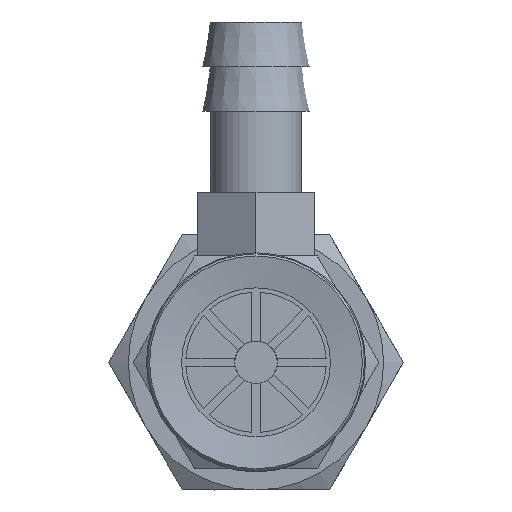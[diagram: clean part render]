
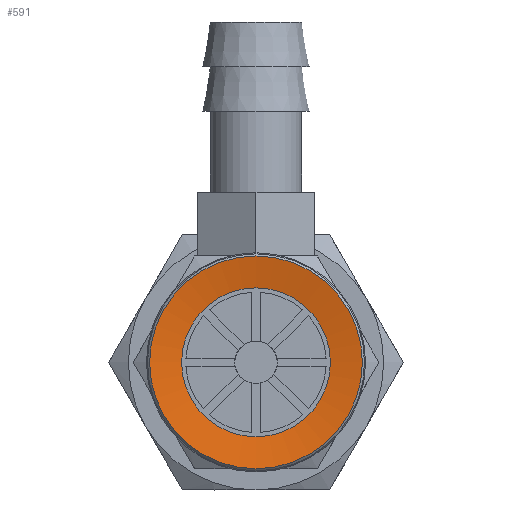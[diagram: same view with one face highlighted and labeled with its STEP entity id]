
A CAD part, front view. The second image highlights one B-rep face of the part: STEP entity #591.
In plain terms, the highlighted conical face has half-angle 80 degrees and reference radius 5 mm.
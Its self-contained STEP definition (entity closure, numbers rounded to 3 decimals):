
#591=ADVANCED_FACE('',(#943,#944),#945,.F.);
#943=FACE_BOUND('',#1330,.T.);
#944=FACE_OUTER_BOUND('',#1331,.T.);
#945=CONICAL_SURFACE('',#1332,5.0,1.396);
#1330=EDGE_LOOP('',(#2332));
#1331=EDGE_LOOP('',(#2333));
#1332=AXIS2_PLACEMENT_3D('',#2334,#2335,#2336);
#2332=ORIENTED_EDGE('',*,*,#2735,.T.);
#2333=ORIENTED_EDGE('',*,*,#2713,.F.);
#2334=CARTESIAN_POINT('',(0.0,0.,0.));
#2335=DIRECTION('',(0.0,0.,-1.0));
#2336=DIRECTION('',(0.0,1.0,0.));
#2713=EDGE_CURVE('',#3197,#3197,#3198,.T.);
#2735=EDGE_CURVE('',#3227,#3227,#3228,.T.);
#3197=VERTEX_POINT('',#4149);
#3198=CIRCLE('',#4150,5.0);
#3227=VERTEX_POINT('',#4193);
#3228=CIRCLE('',#4194,3.5);
#4149=CARTESIAN_POINT('',(0.0,-5.0,0.));
#4150=AXIS2_PLACEMENT_3D('',#4678,#4679,#4680);
#4193=CARTESIAN_POINT('',(0.0,-3.5,0.264));
#4194=AXIS2_PLACEMENT_3D('',#4716,#4717,#4718);
#4678=CARTESIAN_POINT('',(0.0,0.,0.));
#4679=DIRECTION('',(0.0,0.,1.0));
#4680=DIRECTION('',(0.0,-1.0,0.));
#4716=CARTESIAN_POINT('',(0.0,0.,0.264));
#4717=DIRECTION('',(0.0,0.,1.0));
#4718=DIRECTION('',(0.0,-1.0,0.));
